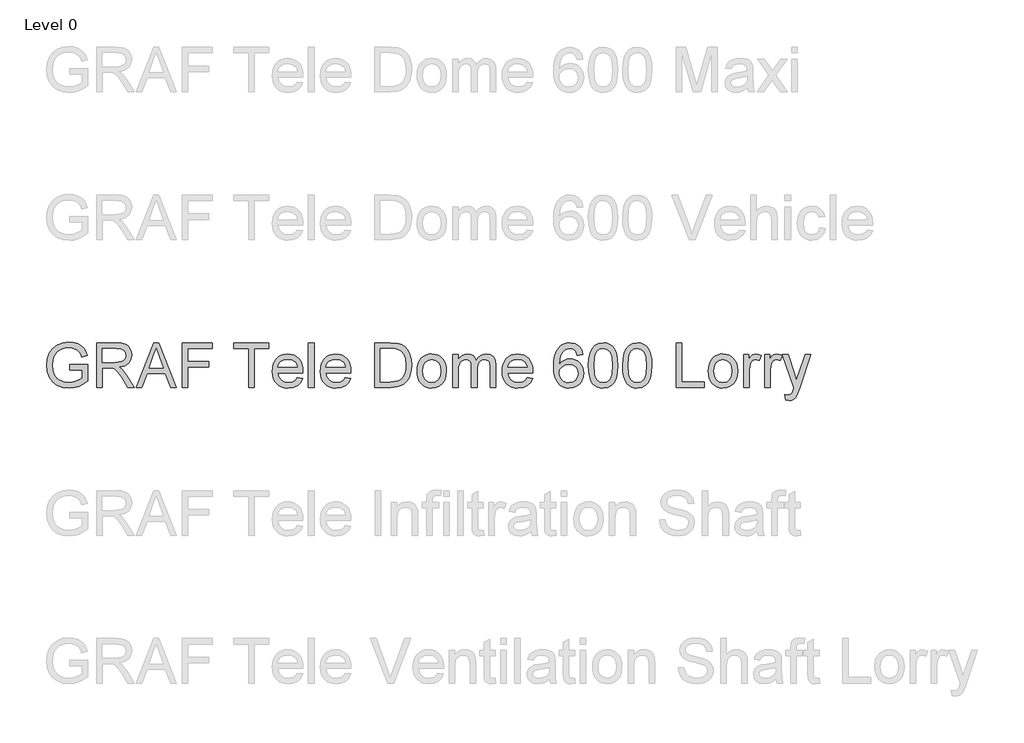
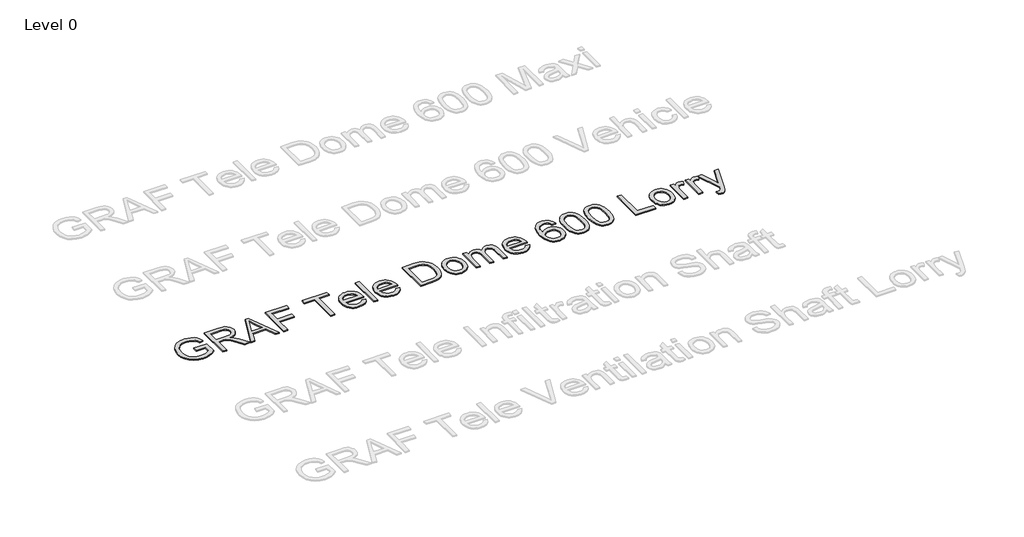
# One storey, part 19 of 25: 1 proxy.
"""IFC4 building model written with IfcOpenShell, lengths in millimetres."""

from ifc_helpers import new_model, si_unit, origin, origin_with_axes, place, context, project, spatial, polyline, outline, extrude, element, save

model = new_model("IFC4")

# Units and contexts
model_context = context("Model", 3, world=origin())
ifc_project = project(units=[si_unit("LENGTHUNIT", "METRE", prefix="MILLI")], contexts=[model_context])

# Site, building, storey
site = spatial("IfcSite", under=ifc_project)
building = spatial("IfcBuilding", under=site)
storey = spatial("IfcBuildingStorey", under=building, Name="Level 0", Elevation=0.0)

# Proxy
placement = place(None, origin())
element("IfcBuildingElementProxy", 1, Name="300mm Arial", ObjectType="300mm Arial", at=placement, inside=storey, context=model_context, shape_type="SweptSolid", body=[
    extrude(outline(polyline([(-15240.9940387, 4916.7454403), (-15240.9940387, 4954.4165566), (-15118.5629107, 4954.4165566), (-15118.5629107, 4841.7710897), (-15148.3153671, 4821.0777274), (-15179.0059225, 4806.2336889), (-15210.5610007, 4797.2941564), (-15242.9070251, 4794.3143123), (-15285.1674693, 4799.050793), (-15323.3628175, 4813.260235), (-15355.0926395, 4836.4459978), (-15377.9565055, 4868.1114405), (-15391.7796715, 4906.0952565), (-15396.3873935, 4948.2361391), (-15391.7980656, 4990.6805243), (-15378.0300819, 5030.1634594), (-15355.6536596, 5063.282036), (-15325.2390156, 5086.6333457), (-15288.1932987, 5100.4841028), (-15245.9236575, 5105.1010218), (-15214.8928112, 5102.4246803), (-15186.9889618, 5094.3956557), (-15163.4904994, 5081.5933623), (-15145.6758138, 5064.5972141), (-15132.4964413, 5042.5886738), (-15122.9039183, 5014.7492038), (-15157.6319786, 5004.9635427), (-15165.3850917, 5024.8199734), (-15174.8120678, 5039.8019677), (-15187.2832674, 5051.0959449), (-15204.169051, 5059.8883246), (-15224.3013932, 5065.5445103), (-15246.5122687, 5067.4299055), (-15272.5123287, 5065.3973575), (-15294.7415982, 5059.2997134), (-15313.1173039, 5049.9003284), (-15327.5566722, 5037.9625577), (-15346.9440533, 5008.9366683), (-15355.7732212, 4980.49939), (-15358.7162772, 4949.7812434), (-15355.175413, 4913.7563991), (-15344.5528204, 4884.1143073), (-15327.1703961, 4861.0665003), (-15303.3500369, 4844.8245102), (-15275.4737787, 4835.195199), (-15245.9236575, 4831.9854286), (-15219.831627, 4834.4042527), (-15194.3833899, 4841.6607251), (-15172.2828791, 4851.6579183), (-15156.234027, 4862.298905), (-15156.234027, 4916.7454403), (-15240.9940387, 4916.7454403)])), origin_with_axes(), (0.0, 0.0, 1.0), 10.0),
    extrude(outline(polyline([(-15057.3473467, 4799.0232018), (-15057.3473467, 5100.3921323), (-14927.4850024, 5100.3921323), (-14892.5821982, 5098.3595842), (-14867.1891434, 5092.2619402), (-14848.6294968, 5081.0047511), (-14834.2269167, 5063.4935682), (-14824.9838815, 5041.7793334), (-14821.9028698, 5017.912989), (-14827.0072325, 4988.2249119), (-14842.3203206, 4963.6136065), (-14853.9200997, 4953.5842236), (-14868.3019865, 4945.5689946), (-14905.4120827, 4935.5809984), (-14884.0013506, 4919.467767), (-14853.467145, 4880.6930048), (-14803.2144645, 4799.0232018), (-14846.9924219, 4799.0232018), (-14886.2086426, 4861.4895646), (-14914.5355562, 4902.8395009), (-14934.4379722, 4922.3740348), (-14952.3538253, 4929.5477337), (-14974.2060158, 4930.8721089), (-15019.6762304, 4930.8721089), (-15019.6762304, 4799.0232018), (-15057.3473467, 4799.0232018)]), holes=[polyline([(-15019.6762304, 4968.5432252), (-14935.3576771, 4968.5432252), (-14911.1418448, 4969.8767974), (-14892.3522719, 4973.8775141), (-14878.2072092, 4980.8120897), (-14867.9249074, 4990.9472387), (-14861.6617165, 5003.2069062), (-14859.5739861, 5016.5150374), (-14863.5563087, 5034.890743), (-14875.5032765, 5049.6979933), (-14896.058683, 5059.4652603), (-14925.8663217, 5062.721016), (-15019.6762304, 5062.721016), (-15019.6762304, 4968.5432252)])]), origin_with_axes(), (0.0, 0.0, 1.0), 10.0),
    extrude(outline(polyline([(-14791.0743586, 4799.0232018), (-14670.7769462, 5100.3921323), (-14638.6976362, 5100.3921323), (-14518.4002238, 4799.0232018), (-14558.2050557, 4799.0232018), (-14592.7123868, 4893.2009926), (-14716.835772, 4893.2009926), (-14751.2695268, 4799.0232018), (-14791.0743586, 4799.0232018)]), holes=[polyline([(-14703.003409, 4930.8721089), (-14606.4711735, 4930.8721089), (-14633.6208647, 5004.9635427), (-14654.7372912, 5062.721016), (-14673.499273, 5011.4382658), (-14703.003409, 4930.8721089)])]), origin_with_axes(), (0.0, 0.0, 1.0), 10.0),
    extrude(outline(polyline([(-14478.1539335, 4799.0232018), (-14478.1539335, 5100.3921323), (-14275.6716834, 5100.3921323), (-14275.6716834, 5062.721016), (-14440.4828172, 5062.721016), (-14440.4828172, 4973.2521147), (-14299.2161311, 4973.2521147), (-14299.2161311, 4935.5809984), (-14440.4828172, 4935.5809984), (-14440.4828172, 4799.0232018), (-14478.1539335, 4799.0232018)])), origin_with_axes(), (0.0, 0.0, 1.0), 10.0),
    extrude(outline(polyline([(-14030.8094274, 4799.0232018), (-14030.8094274, 5062.721016), (-14129.6961077, 5062.721016), (-14129.6961077, 5100.3921323), (-13894.2516308, 5100.3921323), (-13894.2516308, 5062.721016), (-13993.1383111, 5062.721016), (-13993.1383111, 4799.0232018), (-14030.8094274, 4799.0232018)])), origin_with_axes(), (0.0, 0.0, 1.0), 10.0),
    extrude(outline(polyline([(-13701.6286181, 4864.9476554), (-13664.6932658, 4860.2387658), (-13678.001397, 4832.4084929), (-13699.2373851, 4811.6047661), (-13727.9229837, 4798.6369257), (-13763.5799461, 4794.3143123), (-13786.9542484, 4796.1790141), (-13807.7809678, 4801.7731197), (-13826.0601045, 4811.0966291), (-13841.7916583, 4824.1495421), (-13854.4422004, 4840.5685754), (-13863.4783019, 4859.9904455), (-13868.8999628, 4882.4151523), (-13870.7071831, 4907.842696), (-13868.8815687, 4934.1324631), (-13863.4047255, 4957.3044302), (-13854.2766535, 4977.3585975), (-13841.4973527, 4994.2949649), (-13825.8071856, 5007.7502488), (-13807.9465147, 5017.361166), (-13787.9153401, 5023.1277162), (-13765.7136617, 5025.0498997), (-13744.2270539, 5023.1323148), (-13724.7959868, 5017.3795601), (-13707.4204603, 5007.7916356), (-13692.1004744, 4994.3685413), (-13679.5947859, 4977.4689621), (-13670.6621512, 4957.451583), (-13665.3025704, 4934.3164041), (-13663.5160434, 4908.0634252), (-13663.7367726, 4897.9098821), (-13833.0360668, 4897.9098821), (-13826.5153584, 4869.7117272), (-13811.3678173, 4848.9815768), (-13789.5064297, 4836.2344656), (-13762.8441821, 4831.9854286), (-13742.7946134, 4833.9535973), (-13725.9088298, 4839.8581033), (-13712.1868314, 4850.0668287), (-13701.6286181, 4864.9476554)]), holes=[polyline([(-13833.0360668, 4935.5809984), (-13701.1871597, 4935.5809984), (-13706.2823254, 4955.4834144), (-13716.2703215, 4969.7204476), (-13738.2328766, 4982.9641994), (-13765.8608145, 4987.3787834), (-13791.2538692, 4983.8563132), (-13812.2507341, 4973.2889029), (-13826.8464522, 4956.8169866), (-13833.0360668, 4935.5809984)])]), origin_with_axes(), (0.0, 0.0, 1.0), 10.0),
    extrude(outline(polyline([(-13625.8449271, 4799.0232018), (-13625.8449271, 5100.3921323), (-13588.1738108, 5100.3921323), (-13588.1738108, 4799.0232018), (-13625.8449271, 4799.0232018)])), origin_with_axes(), (0.0, 0.0, 1.0), 10.0),
    extrude(outline(polyline([(-13376.71524, 4864.9476554), (-13339.7798877, 4860.2387658), (-13353.0880188, 4832.4084929), (-13374.324007, 4811.6047661), (-13403.0096056, 4798.6369257), (-13438.666568, 4794.3143123), (-13462.0408702, 4796.1790141), (-13482.8675897, 4801.7731197), (-13501.1467263, 4811.0966291), (-13516.8782801, 4824.1495421), (-13529.5288222, 4840.5685754), (-13538.5649238, 4859.9904455), (-13543.9865847, 4882.4151523), (-13545.793805, 4907.842696), (-13543.9681906, 4934.1324631), (-13538.4913474, 4957.3044302), (-13529.3632754, 4977.3585975), (-13516.5839745, 4994.2949649), (-13500.8938074, 5007.7502488), (-13483.0331366, 5017.361166), (-13463.0019619, 5023.1277162), (-13440.8002835, 5025.0498997), (-13419.3136758, 5023.1323148), (-13399.8826086, 5017.3795601), (-13382.5070821, 5007.7916356), (-13367.1870963, 4994.3685413), (-13354.6814077, 4977.4689621), (-13345.748773, 4957.451583), (-13340.3891922, 4934.3164041), (-13338.6026653, 4908.0634252), (-13338.8233945, 4897.9098821), (-13508.1226887, 4897.9098821), (-13501.6019803, 4869.7117272), (-13486.4544391, 4848.9815768), (-13464.5930516, 4836.2344656), (-13437.930804, 4831.9854286), (-13417.8812352, 4833.9535973), (-13400.9954517, 4839.8581033), (-13387.2734532, 4850.0668287), (-13376.71524, 4864.9476554)]), holes=[polyline([(-13508.1226887, 4935.5809984), (-13376.2737816, 4935.5809984), (-13381.3689472, 4955.4834144), (-13391.3569434, 4969.7204476), (-13413.3194985, 4982.9641994), (-13440.9474363, 4987.3787834), (-13466.3404911, 4983.8563132), (-13487.3373559, 4973.2889029), (-13501.9330741, 4956.8169866), (-13508.1226887, 4935.5809984)])]), origin_with_axes(), (0.0, 0.0, 1.0), 10.0),
    extrude(outline(polyline([(-13178.500421, 4799.0232018), (-13178.500421, 5100.3921323), (-13074.5369691, 5100.3921323), (-13020.7526214, 5096.0511247), (-12996.7299272, 5087.6818093), (-12976.4596292, 5074.4932398), (-12955.6191142, 5051.5374033), (-12940.7750757, 5022.9897605), (-12931.8907255, 4989.4021343), (-12928.9292754, 4951.3263478), (-12930.9342323, 4918.9803234), (-12936.9491029, 4890.515454), (-12946.1093646, 4866.2812276), (-12957.5504947, 4846.627132), (-12970.7206701, 4831.1117089), (-12985.0680679, 4819.2934998), (-13001.5399842, 4810.5287112), (-13021.0837152, 4804.1735498), (-13069.533774, 4799.0232018), (-13178.500421, 4799.0232018)]), holes=[polyline([(-13140.8293047, 4836.6943181), (-13074.1690871, 4836.6943181), (-13046.5963316, 4838.0554815), (-13025.6822402, 4842.1389717), (-13009.9001026, 4848.7056653), (-12997.7232085, 4857.5164391), (-12984.6358066, 4873.8228085), (-12974.8041602, 4894.930038), (-12968.6513339, 4920.930098), (-12966.6003918, 4951.914959), (-12970.6195026, 4992.9705897), (-12982.6768349, 5023.2840661), (-13000.4915206, 5044.106187), (-13021.782691, 5056.6877512), (-13043.4509405, 5061.2126998), (-13075.1991567, 5062.721016), (-13140.8293047, 5062.721016), (-13140.8293047, 4836.6943181)])]), origin_with_axes(), (0.0, 0.0, 1.0), 10.0),
    extrude(outline(polyline([(-12891.2581591, 4909.682106), (-12889.2210126, 4938.3447119), (-12883.1095729, 4963.0433894), (-12872.9238402, 4983.7781383), (-12858.6638144, 5000.5489588), (-12844.3072195, 5011.2681204), (-12828.4607026, 5018.9246644), (-12811.1242635, 5023.5185909), (-12792.2979024, 5025.0498997), (-12771.514869, 5023.1851978), (-12752.7229968, 5017.5910922), (-12735.9222859, 5008.2675829), (-12721.1127364, 4995.2146698), (-12709.0255136, 4978.8738115), (-12700.391783, 4959.6864662), (-12695.2115447, 4937.6526339), (-12693.4847985, 4912.7723147), (-12696.5382191, 4874.7149223), (-12705.6984808, 4845.7442152), (-12720.6988691, 4824.0483745), (-12741.2726697, 4807.8155815), (-12765.7092312, 4797.6896296), (-12792.2979024, 4794.3143123), (-12813.3844386, 4796.1721164), (-12832.3510547, 4801.7455286), (-12849.1977508, 4811.034549), (-12863.9245269, 4824.0391775), (-12875.882991, 4840.538685), (-12884.4247511, 4860.3123422), (-12889.5498071, 4883.3601492), (-12891.2581591, 4909.682106)]), holes=[polyline([(-12853.5870428, 4909.7556824), (-12849.2276412, 4875.6622185), (-12836.1494363, 4851.3728097), (-12816.4677495, 4836.8322739), (-12792.2979024, 4831.9854286), (-12768.23842, 4836.859865), (-12748.5935214, 4851.4831743), (-12735.5153165, 4876.0944798), (-12731.1559148, 4910.9329048), (-12735.5429076, 4944.0330873), (-12748.703886, 4967.9914022), (-12768.3763757, 4982.5319381), (-12792.2979024, 4987.3787834), (-12816.4677495, 4982.5503322), (-12836.1494363, 4968.0649786), (-12849.2276412, 4943.8307522), (-12853.5870428, 4909.7556824)])]), origin_with_axes(), (0.0, 0.0, 1.0), 10.0),
    extrude(outline(polyline([(-12651.1047927, 4799.0232018), (-12651.1047927, 5020.3410101), (-12613.4336764, 5020.3410101), (-12613.4336764, 4983.9206926), (-12602.1029109, 5000.6501263), (-12587.5347839, 5013.7559224), (-12570.2259361, 5022.2264053), (-12550.673008, 5025.0498997), (-12529.7221284, 5022.171223), (-12512.9283153, 5013.5351932), (-12500.3835393, 4999.7120272), (-12492.1797708, 4981.2719422), (-12478.4485753, 5000.4247986), (-12462.7859994, 5014.1054103), (-12445.1920429, 5022.3137773), (-12425.666706, 5025.0498997), (-12397.3489895, 5020.49736), (-12376.4073069, 5006.8397409), (-12363.4670577, 4983.7091605), (-12359.1536413, 4950.7377366), (-12359.1536413, 4799.0232018), (-12396.8247576, 4799.0232018), (-12396.8247576, 4934.5509288), (-12400.3196366, 4966.0048394), (-12405.2308612, 4974.6776575), (-12412.9747772, 4981.4926714), (-12422.9351822, 4985.9072554), (-12434.4958739, 4987.3787834), (-12454.9041276, 4983.6079929), (-12471.5415908, 4972.2956216), (-12482.6056419, 4952.6691171), (-12486.2936589, 4923.9559274), (-12486.2936589, 4799.0232018), (-12523.9647752, 4799.0232018), (-12523.9647752, 4938.7447836), (-12526.144476, 4960.0451511), (-12532.6835784, 4975.2386775), (-12544.1890878, 4984.3437569), (-12561.2680095, 4987.3787834), (-12575.7809542, 4985.3554324), (-12589.1534647, 4979.2853795), (-12600.1899246, 4969.3157774), (-12607.6947173, 4955.593779), (-12611.9989366, 4936.5558857), (-12613.4336764, 4910.6385992), (-12613.4336764, 4799.0232018), (-12651.1047927, 4799.0232018)])), origin_with_axes(), (0.0, 0.0, 1.0), 10.0),
    extrude(outline(polyline([(-12147.6950705, 4864.9476554), (-12110.7597182, 4860.2387658), (-12124.0678494, 4832.4084929), (-12145.3038375, 4811.6047661), (-12173.9894361, 4798.6369257), (-12209.6463985, 4794.3143123), (-12233.0207007, 4796.1790141), (-12253.8474202, 4801.7731197), (-12272.1265568, 4811.0966291), (-12287.8581107, 4824.1495421), (-12300.5086528, 4840.5685754), (-12309.5447543, 4859.9904455), (-12314.9664152, 4882.4151523), (-12316.7736355, 4907.842696), (-12314.9480211, 4934.1324631), (-12309.4711779, 4957.3044302), (-12300.3431059, 4977.3585975), (-12287.5638051, 4994.2949649), (-12271.873638, 5007.7502488), (-12254.0129671, 5017.361166), (-12233.9817925, 5023.1277162), (-12211.7801141, 5025.0498997), (-12190.2935063, 5023.1323148), (-12170.8624391, 5017.3795601), (-12153.4869127, 5007.7916356), (-12138.1669268, 4994.3685413), (-12125.6612382, 4977.4689621), (-12116.7286035, 4957.451583), (-12111.3690227, 4934.3164041), (-12109.5824958, 4908.0634252), (-12109.803225, 4897.9098821), (-12279.1025192, 4897.9098821), (-12272.5818108, 4869.7117272), (-12257.4342697, 4848.9815768), (-12235.5728821, 4836.2344656), (-12208.9106345, 4831.9854286), (-12188.8610658, 4833.9535973), (-12171.9752822, 4839.8581033), (-12158.2532838, 4850.0668287), (-12147.6950705, 4864.9476554)]), holes=[polyline([(-12279.1025192, 4935.5809984), (-12147.2536121, 4935.5809984), (-12152.3487777, 4955.4834144), (-12162.3367739, 4969.7204476), (-12184.299329, 4982.9641994), (-12211.9272668, 4987.3787834), (-12237.3203216, 4983.8563132), (-12258.3171864, 4973.2889029), (-12272.9129046, 4956.8169866), (-12279.1025192, 4935.5809984)])]), origin_with_axes(), (0.0, 0.0, 1.0), 10.0),
    extrude(outline(polyline([(-11770.542449, 5020.3410101), (-11808.2135653, 5015.6321206), (-11814.2836183, 5034.3021318), (-11822.4873868, 5047.049243), (-11839.5755054, 5058.8030727), (-11860.2320795, 5062.721016), (-11877.7432624, 5060.4401476), (-11894.2243758, 5053.5975425), (-11908.3786356, 5039.1857653), (-11919.9393273, 5019.3477287), (-11927.7476226, 4991.2875296), (-11930.6446933, 4952.2092646), (-11915.5339404, 4969.8400092), (-11897.4249492, 4982.2652236), (-11877.3293952, 4989.6320606), (-11856.2589539, 4992.0876729), (-11838.1591597, 4990.4092113), (-11821.4573172, 4985.3738265), (-11806.1534262, 4976.9815185), (-11792.2474868, 4965.2322872), (-11780.6913936, 4950.8251086), (-11772.4370413, 4934.4589583), (-11767.48443, 4916.1338365), (-11765.8335595, 4895.849743), (-11768.9421624, 4868.8747957), (-11778.2679709, 4843.868017), (-11793.038433, 4822.65962), (-11812.4809965, 4807.0798175), (-11835.7127445, 4797.5056886), (-11861.8507602, 4794.3143123), (-11884.3076568, 4796.4296338), (-11904.589451, 4802.7755982), (-11922.696143, 4813.3522055), (-11938.6277326, 4828.1594558), (-11951.6162663, 4847.8227485), (-11960.8937904, 4872.9674829), (-11966.4603048, 4903.593659), (-11968.3158096, 4939.7012768), (-11966.2556705, 4980.1820918), (-11960.075253, 5014.7308097), (-11949.7745571, 5043.3474304), (-11935.3535829, 5066.0319539), (-11919.7231966, 5081.0645319), (-11901.6004098, 5091.8020877), (-11880.9852225, 5098.2446211), (-11857.8776347, 5100.3921323), (-11824.8234374, 5095.0762374), (-11798.3543279, 5079.1285529), (-11779.8130753, 5053.7998776), (-11770.542449, 5020.3410101)]), holes=[polyline([(-11930.6446933, 4896.4383541), (-11928.4649925, 4879.7457086), (-11921.9258901, 4863.8072212), (-11911.772347, 4850.1036169), (-11898.7493244, 4840.1156207), (-11883.0315661, 4834.0179766), (-11864.7938162, 4831.9854286), (-11839.9341904, 4836.1976774), (-11820.3904594, 4848.834424), (-11807.7261217, 4868.7000517), (-11803.5046758, 4894.5989442), (-11807.6709394, 4919.45857), (-11820.1697302, 4938.4136898), (-11840.044555, 4950.4158399), (-11866.3389206, 4954.4165566), (-11891.1617582, 4950.4158399), (-11911.9194998, 4938.4136898), (-11925.9633949, 4919.9184225), (-11930.6446933, 4896.4383541)])]), origin_with_axes(), (0.0, 0.0, 1.0), 10.0),
    extrude(outline(polyline([(-11732.8713327, 4947.2796459), (-11730.1030207, 4995.5181725), (-11721.7980847, 5033.9894321), (-11708.0392981, 5063.282036), (-11688.9094343, 5083.9845953), (-11664.2705377, 5096.290248), (-11633.9846524, 5100.3921323), (-11610.7712985, 5097.9641111), (-11589.9859658, 5090.6800476), (-11572.6035415, 5078.8250503), (-11559.598913, 5062.6842278), (-11549.7764637, 5042.3955357), (-11541.9405772, 5018.0969299), (-11536.8086234, 4987.2408276), (-11535.0979721, 4947.2796459), (-11537.838693, 4899.3170308), (-11546.0608556, 4860.9377416), (-11559.7368687, 4831.6175466), (-11578.8391413, 4810.8322139), (-11603.5332203, 4798.4437877), (-11633.9846524, 4794.3143123), (-11654.733197, 4796.107737), (-11673.1272967, 4801.4880112), (-11689.1669517, 4810.4551348), (-11702.8521619, 4823.0091079), (-11715.9855492, 4845.7028285), (-11725.36654, 4873.9791583), (-11730.9951346, 4907.8380975), (-11732.8713327, 4947.2796459)]), holes=[polyline([(-11695.2002164, 4947.3532223), (-11690.7856325, 4888.0966299), (-11685.2674026, 4867.8286312), (-11677.5418807, 4853.8008309), (-11657.8234057, 4837.4392792), (-11633.9846524, 4831.9854286), (-11610.1458991, 4837.4576733), (-11590.4274242, 4853.8744073), (-11582.7019023, 4867.9252003), (-11577.1836724, 4888.1886004), (-11572.7690884, 4947.3532223), (-11577.0365196, 5005.2762424), (-11582.3708085, 5025.4775625), (-11589.838813, 5039.8387559), (-11609.5204997, 5057.0004509), (-11634.4261108, 5062.721016), (-11658.0073467, 5057.6810326), (-11676.9532695, 5042.5610826), (-11684.9363088, 5026.9260978), (-11690.6384797, 5005.8464595), (-11695.2002164, 4947.3532223)])]), origin_with_axes(), (0.0, 0.0, 1.0), 10.0),
    extrude(outline(polyline([(-11502.1357454, 4947.2796459), (-11499.3674333, 4995.5181725), (-11491.0624973, 5033.9894321), (-11477.3037107, 5063.282036), (-11458.1738469, 5083.9845953), (-11433.5349503, 5096.290248), (-11403.2490651, 5100.3921323), (-11380.0357112, 5097.9641111), (-11359.2503784, 5090.6800476), (-11341.8679542, 5078.8250503), (-11328.8633256, 5062.6842278), (-11319.0408764, 5042.3955357), (-11311.2049899, 5018.0969299), (-11306.073036, 4987.2408276), (-11304.3623847, 4947.2796459), (-11307.1031056, 4899.3170308), (-11315.3252682, 4860.9377416), (-11329.0012814, 4831.6175466), (-11348.103554, 4810.8322139), (-11372.7976329, 4798.4437877), (-11403.2490651, 4794.3143123), (-11423.9976096, 4796.107737), (-11442.3917093, 4801.4880112), (-11458.4313643, 4810.4551348), (-11472.1165745, 4823.0091079), (-11485.2499618, 4845.7028285), (-11494.6309527, 4873.9791583), (-11500.2595472, 4907.8380975), (-11502.1357454, 4947.2796459)]), holes=[polyline([(-11464.464629, 4947.3532223), (-11460.0500451, 4888.0966299), (-11454.5318152, 4867.8286312), (-11446.8062933, 4853.8008309), (-11427.0878183, 4837.4392792), (-11403.2490651, 4831.9854286), (-11379.4103118, 4837.4576733), (-11359.6918368, 4853.8744073), (-11351.9663149, 4867.9252003), (-11346.448085, 4888.1886004), (-11342.0335011, 4947.3532223), (-11346.3009322, 5005.2762424), (-11351.6352211, 5025.4775625), (-11359.1032256, 5039.8387559), (-11378.7849124, 5057.0004509), (-11403.6905234, 5062.721016), (-11427.2717593, 5057.6810326), (-11446.2176821, 5042.5610826), (-11454.2007214, 5026.9260978), (-11459.9028923, 5005.8464595), (-11464.464629, 4947.3532223)])]), origin_with_axes(), (0.0, 0.0, 1.0), 10.0),
    extrude(outline(polyline([(-11139.5512509, 4799.0232018), (-11139.5512509, 5100.3921323), (-11101.8801346, 5100.3921323), (-11101.8801346, 4836.6943181), (-10951.1956694, 4836.6943181), (-10951.1956694, 4799.0232018), (-11139.5512509, 4799.0232018)])), origin_with_axes(), (0.0, 0.0, 1.0), 10.0),
    extrude(outline(polyline([(-10922.9423321, 4909.682106), (-10920.9051856, 4938.3447119), (-10914.793746, 4963.0433894), (-10904.6080132, 4983.7781383), (-10890.3479874, 5000.5489588), (-10875.9913925, 5011.2681204), (-10860.1448756, 5018.9246644), (-10842.8084365, 5023.5185909), (-10823.9820754, 5025.0498997), (-10803.199042, 5023.1851978), (-10784.4071698, 5017.5910922), (-10767.6064589, 5008.2675829), (-10752.7969094, 4995.2146698), (-10740.7096866, 4978.8738115), (-10732.075956, 4959.6864662), (-10726.8957177, 4937.6526339), (-10725.1689715, 4912.7723147), (-10728.2223921, 4874.7149223), (-10737.3826538, 4845.7442152), (-10752.3830421, 4824.0483745), (-10772.9568427, 4807.8155815), (-10797.3934042, 4797.6896296), (-10823.9820754, 4794.3143123), (-10845.0686116, 4796.1721164), (-10864.0352277, 4801.7455286), (-10880.8819238, 4811.034549), (-10895.6086999, 4824.0391775), (-10907.567164, 4840.538685), (-10916.1089241, 4860.3123422), (-10921.2339801, 4883.3601492), (-10922.9423321, 4909.682106)]), holes=[polyline([(-10885.2712158, 4909.7556824), (-10880.9118142, 4875.6622185), (-10867.8336093, 4851.3728097), (-10848.1519225, 4836.8322739), (-10823.9820754, 4831.9854286), (-10799.922593, 4836.859865), (-10780.2776944, 4851.4831743), (-10767.1994895, 4876.0944798), (-10762.8400878, 4910.9329048), (-10767.2270806, 4944.0330873), (-10780.388059, 4967.9914022), (-10800.0605487, 4982.5319381), (-10823.9820754, 4987.3787834), (-10848.1519225, 4982.5503322), (-10867.8336093, 4968.0649786), (-10880.9118142, 4943.8307522), (-10885.2712158, 4909.7556824)])]), origin_with_axes(), (0.0, 0.0, 1.0), 10.0),
    extrude(outline(polyline([(-10682.7889657, 4799.0232018), (-10682.7889657, 5020.3410101), (-10649.8267389, 5020.3410101), (-10649.8267389, 4987.5995125), (-10637.6498449, 5006.5822235), (-10626.429444, 5017.7658362), (-10615.172255, 5023.2288838), (-10602.8849963, 5025.0498997), (-10584.1230146, 5022.1436319), (-10565.0667272, 5013.4248286), (-10577.6482915, 4979.6532615), (-10590.8920433, 4985.4474029), (-10604.1357951, 4987.3787834), (-10615.3837871, 4985.5209793), (-10625.4361626, 4979.947567), (-10633.5571577, 4971.081611), (-10639.0110083, 4959.3461753), (-10643.5911391, 4938.3033252), (-10645.1178494, 4915.3474887), (-10645.1178494, 4799.0232018), (-10682.7889657, 4799.0232018)])), origin_with_axes(), (0.0, 0.0, 1.0), 10.0),
    extrude(outline(polyline([(-10541.5222795, 4799.0232018), (-10541.5222795, 5020.3410101), (-10508.5600528, 5020.3410101), (-10508.5600528, 4987.5995125), (-10496.3831587, 5006.5822235), (-10485.1627579, 5017.7658362), (-10473.9055688, 5023.2288838), (-10461.6183102, 5025.0498997), (-10442.8563284, 5022.1436319), (-10423.8000411, 5013.4248286), (-10436.3816053, 4979.6532615), (-10449.6253572, 4985.4474029), (-10462.869109, 4987.3787834), (-10474.117101, 4985.5209793), (-10484.1694765, 4979.947567), (-10492.2904715, 4971.081611), (-10497.7443221, 4959.3461753), (-10502.324453, 4938.3033252), (-10503.8511632, 4915.3474887), (-10503.8511632, 4799.0232018), (-10541.5222795, 4799.0232018)])), origin_with_axes(), (0.0, 0.0, 1.0), 10.0),
    extrude(outline(polyline([(-10400.2555934, 4714.2631901), (-10404.9644829, 4750.5363549), (-10385.8346192, 4747.2254169), (-10367.9555542, 4751.3824834), (-10356.9926708, 4762.9707663), (-10346.6919749, 4790.7090687), (-10343.7489189, 4799.8325422), (-10423.8000411, 5020.3410101), (-10384.0687856, 5020.3410101), (-10341.6152034, 4897.4684237), (-10326.8263472, 4848.3193892), (-10312.037491, 4891.7294646), (-10268.4066863, 5020.3410101), (-10228.9697364, 5020.3410101), (-10306.0042262, 4793.7257011), (-10326.0170068, 4744.5766665), (-10336.2625203, 4728.8864994), (-10347.8691973, 4718.0155865), (-10361.3520724, 4711.6696221), (-10377.2261805, 4709.5543006), (-10400.2555934, 4714.2631901)])), origin_with_axes(), (0.0, 0.0, 1.0), 10.0),
])

save(model, "model.ifc")
